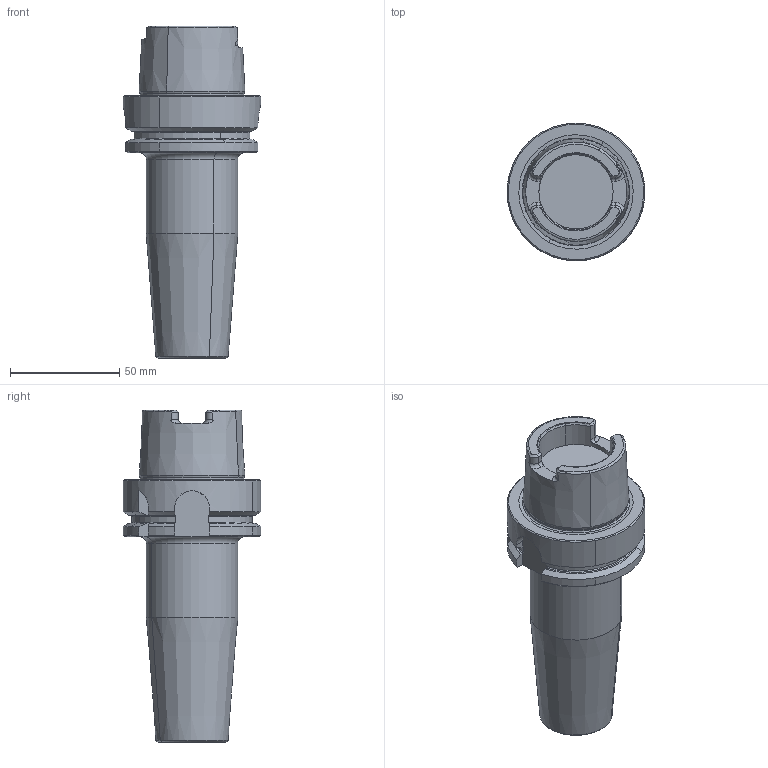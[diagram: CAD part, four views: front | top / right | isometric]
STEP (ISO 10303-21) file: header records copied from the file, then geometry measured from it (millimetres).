
FILE_DESCRIPTION(('CATIA V5 STEP','CAx-IF Rec.Pracs.--- Model Styling and Organization---1.2---2011-12-15'),'2;1');
FILE_NAME('\\nas01\drv1\utils\eitdev\rte\eit\transmagicconvert\db\out\4504027 L.stp','2014-03-31T11:38:54+00:00',('none'),('none'),'CATIA Version 5 Release 21 SP 5 (IN-10)','CATIA V5 STEP AP214','none');
FILE_SCHEMA(('AUTOMOTIVE_DESIGN { 1 0 10303 214 1 1 1 1 }'));
Length unit declared in the file: millimetre
Products named in the file (1): 60967257_0 Holder-Tool HSK A 63 SRKIN 18X120
Bounding box: 63 x 63 x 152 mm (x, y, z)
Volume: 232117.2 mm3; surface area: 28642.3 mm2
Topology: 1 solids, 1 shells, 135 faces, 348 edges, 218 vertices
Faces by surface type: plane 41, cone 34, cylinder 32, torus 28
Entity records: 4216 total; most frequent: CARTESIAN_POINT 1309, ORIENTED_EDGE 696, DIRECTION 429, EDGE_CURVE 348, AXIS2_PLACEMENT_3D 231, VERTEX_POINT 218, CIRCLE 150, EDGE_LOOP 138
